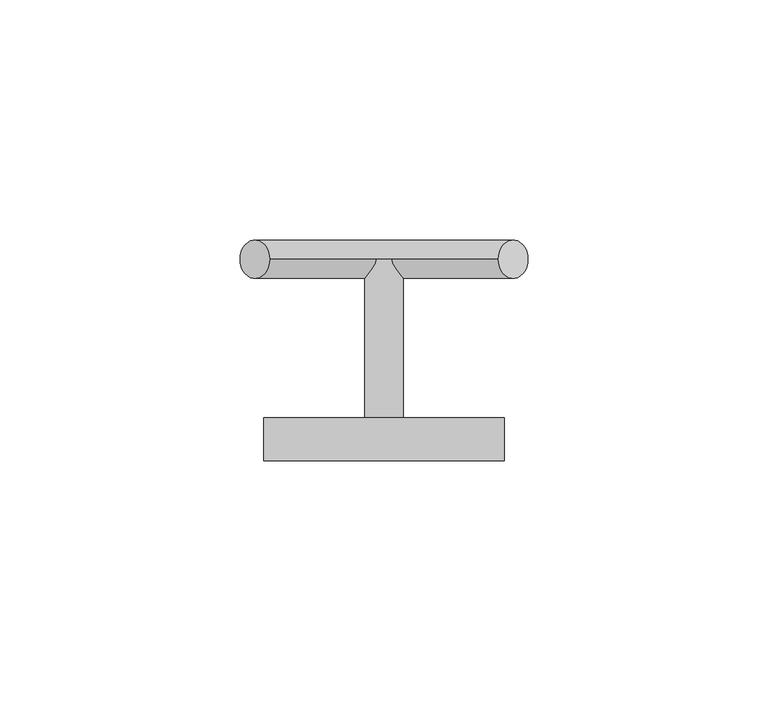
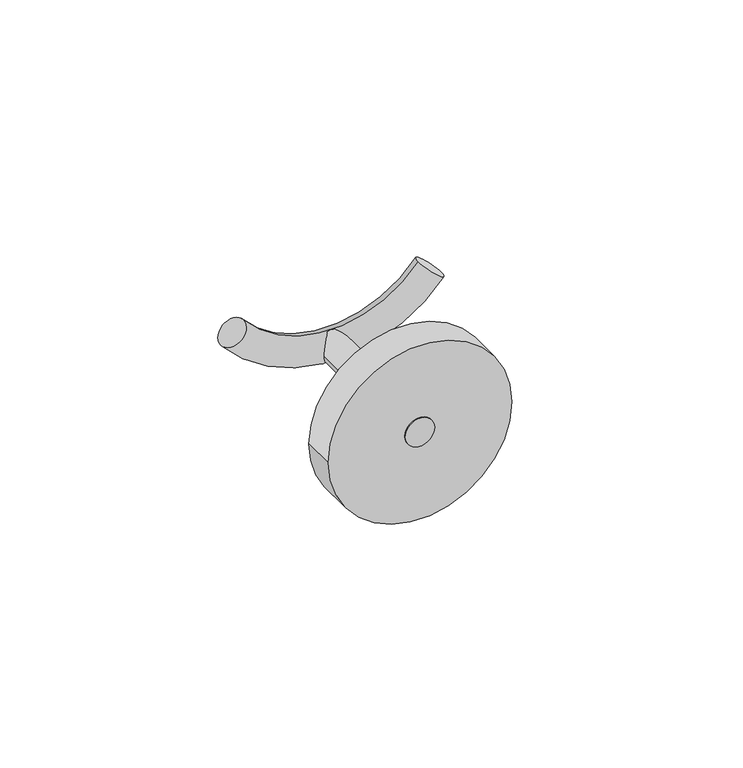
"""IFC4 building model written with IfcOpenShell, lengths in millimetres: flow terminal geometry, Toallero gancho Dica 1006 : Toallero gancho Dica 1006."""

from ifc_helpers import new_model, si_unit, point, frame, frame_2d, origin, place, context, project, spatial, circle_curve, ellipse_curve, trimmed, segment, composite_curve, outline, extrude, source, transform, mapped, element, save
from ifc_brep_helpers import plane_surface, revolved_surface, advanced_brep


def flow_terminal_bcb3a9d6(model_context):
    return source(origin(), model_context, "Body", "SolidModel", [
        extrude(outline(composite_curve([segment(trimmed(circle_curve(frame_2d((0.0, 125.0)), 4.0), [point((0.0, 121.0))], [point((0.0, 129.0))], False, "CARTESIAN"), True, "CONTINUOUS"), segment(trimmed(circle_curve(frame_2d((0.0, 125.0)), 4.0), [point((0.0, 129.0))], [point((0.0, 121.0))], False, "CARTESIAN"), True, "CONTINUOUS")], self_intersect=False)), frame((0.0, 10.0, 0.0), z_axis=(0.0, 1.0, 0.0), x_axis=(0.0, 0.0, 1.0)), (0.0, 0.0, 1.0), 41.9477391),
        extrude(outline(composite_curve([segment(trimmed(circle_curve(frame_2d((0.0, 125.0)), 25.0), [point((0.0, 100.0))], [point((0.0, 150.0))], False, "CARTESIAN"), True, "CONTINUOUS"), segment(trimmed(circle_curve(frame_2d((0.0, 125.0)), 25.0), [point((0.0, 150.0))], [point((0.0, 100.0))], False, "CARTESIAN"), True, "CONTINUOUS")], self_intersect=False)), frame((0.0, 10.0, 0.0), z_axis=(0.0, 1.0, 0.0), x_axis=(0.0, 0.0, 1.0)), (0.0, 0.0, 1.0), 8.9918697),
        advanced_brep(
        [(148.794894, 51.9477391, 15.1860733), (154.9551537, 51.9477391, 10.0820356), (101.205106, 51.9477391, 15.1860733), (95.0448463, 51.9477391, 10.0820356)],
        [
            (0, 1, circle_curve(frame((151.8750238, 51.9477391, 12.6340545), z_axis=(0.6380047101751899, 0.0, 0.7700324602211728), x_axis=(0.7700324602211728, 0.0, -0.6380047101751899)), 4.0)),
            (1, 0, circle_curve(frame((151.8750238, 51.9477391, 12.6340545), z_axis=(0.6380047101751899, 0.0, 0.7700324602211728), x_axis=(0.7700324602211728, 0.0, -0.6380047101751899)), 4.0)),
            (2, 3, circle_curve(frame((98.1249762, 51.9477391, 12.6340545), z_axis=(-0.6380047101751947, 0.0, 0.7700324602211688), x_axis=(-0.7700324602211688, 0.0, -0.6380047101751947)), 4.0)),
            (3, 2, circle_curve(frame((98.1249762, 51.9477391, 12.6340545), z_axis=(-0.6380047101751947, 0.0, 0.7700324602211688), x_axis=(-0.7700324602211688, 0.0, -0.6380047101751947)), 4.0)),
            (3, 1, circle_curve(frame((125.0, 51.9477391, 34.901157), z_axis=(0.0, -1.0, 0.0), x_axis=(0.7700324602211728, 0.0, -0.6380047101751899)), 38.901157)),
            (0, 2, circle_curve(frame((125.0, 51.9477391, 34.901157), z_axis=(0.0, 1.0, 0.0), x_axis=(0.7700324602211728, 0.0, -0.6380047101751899)), 30.901157)),
        ],
        [
            plane_surface(frame((151.8750238, 10.0, 12.6340545), z_axis=(0.6380047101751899, 0.0, 0.7700324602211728), x_axis=(0.0, -1.0, 0.0))),
            plane_surface(frame((98.1249762, 10.0, 12.6340545), z_axis=(-0.6380047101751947, 0.0, 0.7700324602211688), x_axis=(0.0, -1.0, 0.0))),
            revolved_surface(trimmed(ellipse_curve(frame((151.8750238, 51.9477391, 12.6340545), z_axis=(0.6380047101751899, 0.0, 0.7700324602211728), x_axis=(0.7700324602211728, 0.0, -0.6380047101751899)), 4.0, 4.0), [point((148.794894, 51.9477391, 15.1860733))], [point((154.9551537, 51.9477391, 10.0820356))], True, "CARTESIAN"), (125.0, 10.0, 34.901157), (0.0, 1.0, 0.0)),
            revolved_surface(trimmed(ellipse_curve(frame((151.8750238, 51.9477391, 12.6340545), z_axis=(0.6380047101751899, 0.0, 0.7700324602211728), x_axis=(0.7700324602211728, 0.0, -0.6380047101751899)), 4.0, 4.0), [point((154.9551537, 51.9477391, 10.0820356))], [point((148.794894, 51.9477391, 15.1860733))], True, "CARTESIAN"), (125.0, 10.0, 34.901157), (0.0, 1.0, 0.0)),
        ],
        [
            (0, [[1, 2]]),
            (1, [[3, 4]]),
            (2, [[5, -1, 6, -4]]),
            (3, [[-6, -2, -5, -3]]),
        ],
    ),
    ])


if __name__ == "__main__":
    model = new_model("IFC4")
    model_context = context("Model", 3, world=origin())
    ifc_project = project(units=[si_unit("LENGTHUNIT", "METRE", prefix="MILLI")], contexts=[model_context])
    site = spatial("IfcSite", under=ifc_project)
    building = spatial("IfcBuilding", under=site)
    placement = place(None, origin())
    flow_terminal_shape = flow_terminal_bcb3a9d6(model_context)
    element("IfcFlowTerminal", 1, ObjectType="Toallero gancho Dica 1006 : Toallero gancho Dica 1006", at=placement, inside=building, context=model_context, shape_type="MappedRepresentation", body=[
        mapped(flow_terminal_shape, transform((0.0, 0.0, 0.0), x_axis=(1.0, 0.0, 0.0), y_axis=(0.0, 1.0, 0.0), z_axis=(0.0, 0.0, 1.0))),
    ])
    save(model, "model.ifc")
